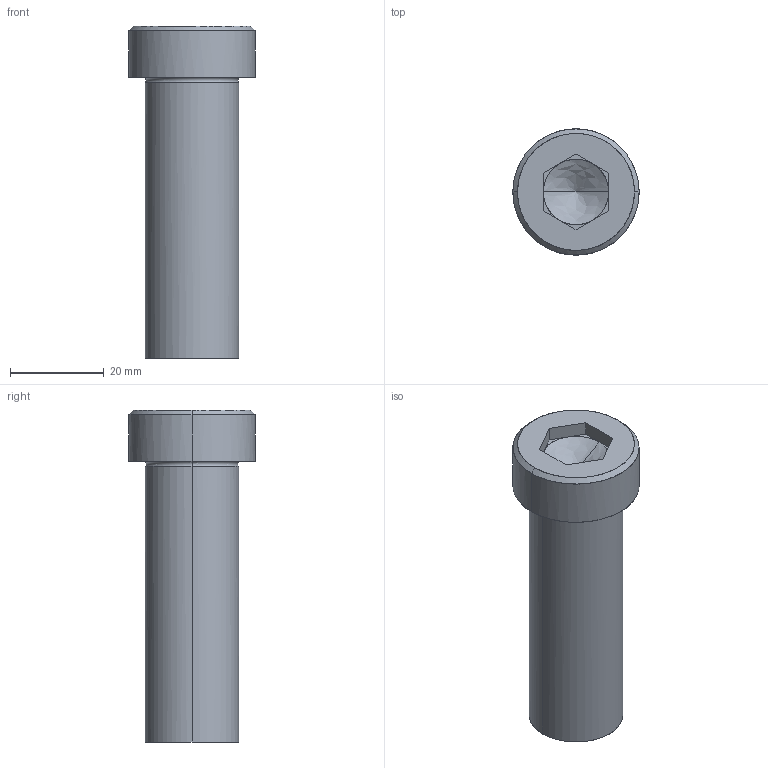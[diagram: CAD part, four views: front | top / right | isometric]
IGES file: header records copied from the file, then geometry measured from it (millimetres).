
Global section: file name: E:\UnigraphicsGraphicData\MISUMI_PRESS-PARTS\IGES\3d_sbtcn20-60_05130_r00.igs; native system: NX V5.0; preprocessor: UGS NX IGES V5.0; author: MISUMI; date: 20110105.162458; units: millimetre
Bounding box: 27 x 27 x 71 mm (x, y, z)
Surface area: 6798.9 mm2 (no closed solid volume)
Topology: 0 solids, 0 shells, 34 faces, 194 edges, 190 vertices
Faces by surface type: bspline 34
